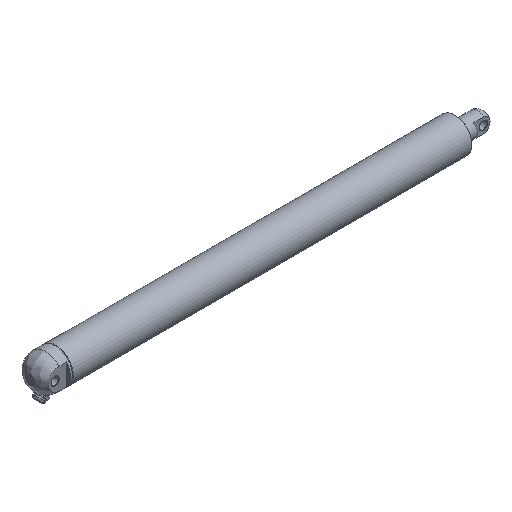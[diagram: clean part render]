
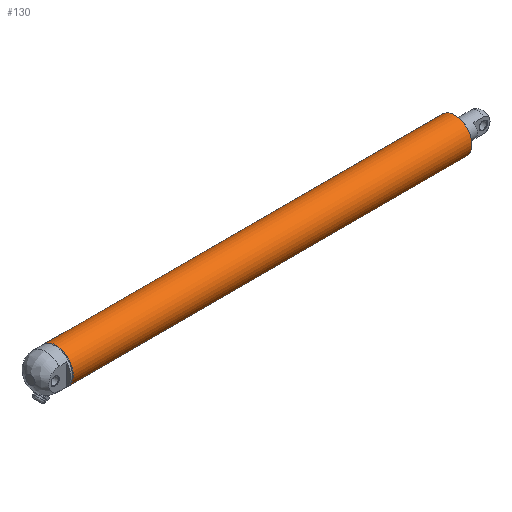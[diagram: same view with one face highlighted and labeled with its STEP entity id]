
A CAD part, isometric view. The second image highlights one B-rep face of the part: STEP entity #130.
In plain terms, the highlighted cylindrical face has radius 22.5 mm (diameter 45 mm), a full revolution.
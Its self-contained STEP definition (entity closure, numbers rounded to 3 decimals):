
#130 = ADVANCED_FACE( '', ( #305, #306 ), #307, .T. );
#305 = FACE_OUTER_BOUND( '', #533, .T. );
#306 = FACE_OUTER_BOUND( '', #534, .T. );
#307 = CYLINDRICAL_SURFACE( '', #535, 22.5 );
#533 = EDGE_LOOP( '', ( #931 ) );
#534 = EDGE_LOOP( '', ( #932 ) );
#535 = AXIS2_PLACEMENT_3D( '', #933, #934, #935 );
#931 = ORIENTED_EDGE( '', *, *, #1352, .T. );
#932 = ORIENTED_EDGE( '', *, *, #1367, .T. );
#933 = CARTESIAN_POINT( '', ( 523., 0., 0. ) );
#934 = DIRECTION( '', ( 1., 0., 0. ) );
#935 = DIRECTION( '', ( 0., 0., 1. ) );
#1352 = EDGE_CURVE( '', #1612, #1612, #1613, .F. );
#1367 = EDGE_CURVE( '', #1635, #1635, #1636, .T. );
#1612 = VERTEX_POINT( '', #2093 );
#1613 = CIRCLE( '', #2094, 22.5 );
#1635 = VERTEX_POINT( '', #2123 );
#1636 = CIRCLE( '', #2124, 22.5 );
#2093 = CARTESIAN_POINT( '', ( 0.5, 0., 22.5 ) );
#2094 = AXIS2_PLACEMENT_3D( '', #2492, #2493, #2494 );
#2123 = CARTESIAN_POINT( '', ( 522.5, 0., 22.5 ) );
#2124 = AXIS2_PLACEMENT_3D( '', #2514, #2515, #2516 );
#2492 = CARTESIAN_POINT( '', ( 0.5, 0., 0. ) );
#2493 = DIRECTION( '', ( -1., 0., 0. ) );
#2494 = DIRECTION( '', ( 0., 0., 1. ) );
#2514 = CARTESIAN_POINT( '', ( 522.5, 0., 0. ) );
#2515 = DIRECTION( '', ( -1., 0., 0. ) );
#2516 = DIRECTION( '', ( 0., 0., 1. ) );
